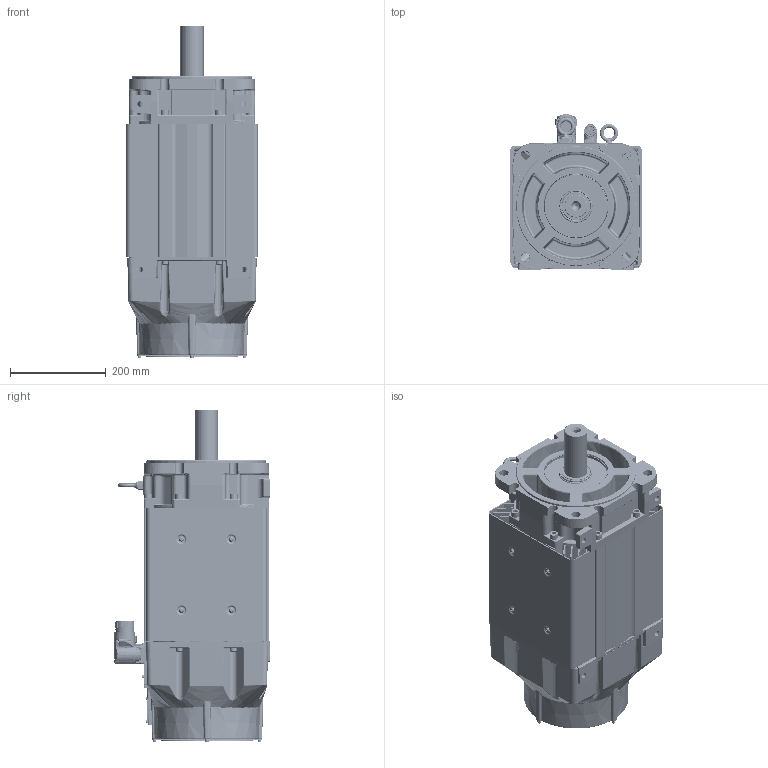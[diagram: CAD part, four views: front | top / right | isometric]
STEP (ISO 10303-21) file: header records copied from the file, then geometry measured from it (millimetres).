
FILE_DESCRIPTION((''),'2;1');
FILE_NAME('VPC-B3002A-YK72FX_ASM','2016-09-27T',('SRGaddam'),('Rockwell Automation'),'PRO/ENGINEER BY PARAMETRIC TECHNOLOGY CORPORATION, 2012480','PRO/ENGINEER BY PARAMETRIC TECHNOLOGY CORPORATION, 2012480','');
FILE_SCHEMA(('CONFIG_CONTROL_DESIGN'));
Products named in the file (41): 10001404634_AF0; 10001404629_AF6; 10001404635_ASM; 10001585735; 10001441946; 10001737030; 10001448075; 10001587021; 10001405269_AF12; 10001405240_AF25; 10001405367_ASM; 10001946256; 10001956852; 10001989665; 10001713549_ASM; M4X7X14-SOCHD-CAP-SCR; 10001978970; 10001336508; 10001587431; CH4X063; 10001299929; 10001284567; 10000172464; 10001445961; 221404-Q12; 10000231113; 10002279234; 10001443420_ASM; 10001609981; 0002-5004; 10001586887; 10001439756; 142403; 125284; 142403-1_ASM; M940_ASM; 142414_623; 135798_623; 142414-1_623_ASM; M623_ASM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
Assembly tree (80 placements, depth 4):
  VPC-B3002A-YK72FX_ASM
    10001404635_ASM
      10001404634_AF0
      10001404629_AF6
    10001585735  x8
    10001441946
    10001737030
    10001448075  x2
    10001587021  x8
    10001405367_ASM
      10001405269_AF12
      10001405240_AF25
    10001443420_ASM
      10001946256
      10001713549_ASM
        10001956852
        10001989665
      M4X7X14-SOCHD-CAP-SCR  x4
      10001978970
      10001336508
      10001587431
      CH4X063  x2
      10001299929
      10001284567
      10000172464  x4
      10001445961
      221404-Q12  x5
      10000231113
      10002279234
    10001609981
    0002-5004  x2
    10001586887  x6
    10001439756
    M940_ASM
      142403-1_ASM
        142403
        125284
      221404-Q12  x4
    M623_ASM
      142414-1_623_ASM
        142414_623
        135798_623
      10000172464  x4
Bounding box: 275.91 x 324.15 x 692.35 mm (x, y, z)
Volume: 11599600.4 mm3; surface area: 2764335.8 mm2
Topology: 84 solids, 85 shells, 8030 faces, 19055 edges, 11451 vertices
Faces by surface type: cylinder 2443, plane 2239, bspline 1318, cone 1199, torus 683, sphere 142, extrusion 6
Entity records: 223169 total; most frequent: CARTESIAN_POINT 95104, ORIENTED_EDGE 27452, DIRECTION 25269, EDGE_CURVE 13726, AXIS2_PLACEMENT_3D 9754, VERTEX_POINT 8497, EDGE_LOOP 6191, VECTOR 5761
